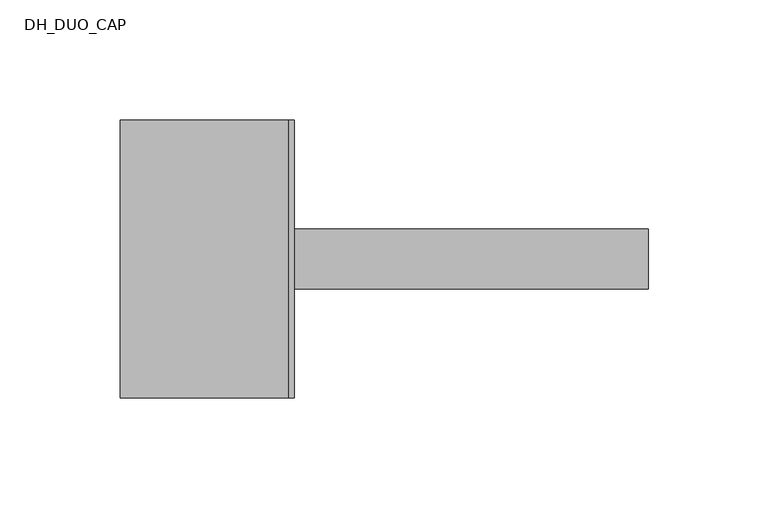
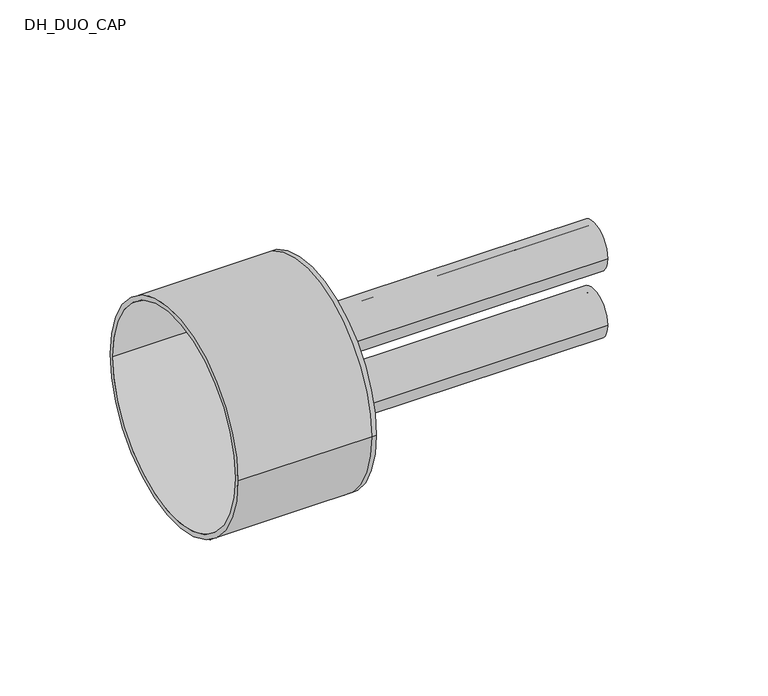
"""IFC4 building model written with IfcOpenShell, lengths in millimetres: pipe fitting geometry, DH_DUO_CAP : RAUTHERMEX DUO + 7.4 Heating - Solid Cap."""

from ifc_helpers import new_model, si_unit, point, frame, frame_2d, origin, place, context, project, spatial, polyline, circle_curve, trimmed, segment, composite_curve, outline, extrude, source, transform, mapped, element, save
from ifc_brep_helpers import plane_surface, cylinder_surface, revolved_surface, advanced_brep


def dh_duo_cap_164f9e09(model_context):
    return source(origin(), model_context, "Body", "SolidModel", [
        extrude(outline(composite_curve([segment(trimmed(circle_curve(frame_2d((0.0, -18.5)), 12.5), [point((-12.5, -18.5))], [point((12.5, -18.5))], False, "CARTESIAN"), True, "CONTINUOUS"), segment(trimmed(circle_curve(frame_2d((0.0, -18.5)), 12.5), [point((12.5, -18.5))], [point((-12.5, -18.5))], False, "CARTESIAN"), True, "CONTINUOUS")], self_intersect=False), holes=[composite_curve([segment(trimmed(circle_curve(frame_2d((0.0, -18.5)), 9.0), [point((-9.0, -18.5))], [point((9.0, -18.5))], True, "CARTESIAN"), True, "CONTINUOUS"), segment(trimmed(circle_curve(frame_2d((0.0, -18.5)), 9.0), [point((9.0, -18.5))], [point((-9.0, -18.5))], True, "CARTESIAN"), True, "CONTINUOUS")], self_intersect=False)]), frame((0.0, 0.0, 0.0), z_axis=(1.0, 0.0, 0.0), x_axis=(0.0, 1.0, 0.0)), (0.0, 0.0, 1.0), 150.0),
        extrude(outline(composite_curve([segment(trimmed(circle_curve(frame_2d((0.0, 18.5)), 12.5), [point((-12.5, 18.5))], [point((12.5, 18.5))], False, "CARTESIAN"), True, "CONTINUOUS"), segment(trimmed(circle_curve(frame_2d((0.0, 18.5)), 12.5), [point((12.5, 18.5))], [point((-12.5, 18.5))], False, "CARTESIAN"), True, "CONTINUOUS")], self_intersect=False), holes=[composite_curve([segment(trimmed(circle_curve(frame_2d((0.0, 18.5)), 9.0), [point((-9.0, 18.5))], [point((9.0, 18.5))], True, "CARTESIAN"), True, "CONTINUOUS"), segment(trimmed(circle_curve(frame_2d((0.0, 18.5)), 9.0), [point((9.0, 18.5))], [point((-9.0, 18.5))], True, "CARTESIAN"), True, "CONTINUOUS")], self_intersect=False)]), frame((0.0, 0.0, 0.0), z_axis=(1.0, 0.0, 0.0), x_axis=(0.0, 1.0, 0.0)), (0.0, 0.0, 1.0), 150.0),
        advanced_brep(
        [(-70.0, -58.0, 0.0), (-70.0, 58.0, 0.0), (-70.0, -55.5, 0.0), (-70.0, 55.5, 0.0), (0.0, -55.5, 0.0), (0.0, 55.5, 0.0), (0.0, -58.0, 0.0), (0.0, 58.0, 0.0), (0.0, 12.5, 18.5), (0.0, -12.5, 18.5), (0.0, 12.5, -18.5), (0.0, -12.5, -18.5), (2.5, -58.0, 0.0), (2.5, 58.0, 0.0), (2.5, -12.5, 18.5), (2.5, 12.5, 18.5), (2.5, -12.5, -18.5), (2.5, 12.5, -18.5)],
        [
            (0, 1, circle_curve(frame((-70.0, 0.0, 0.0), z_axis=(-1.0, 0.0, 0.0), x_axis=(0.0, 1.0, 0.0)), 58.0)),
            (1, 0, circle_curve(frame((-70.0, 0.0, 0.0), z_axis=(-1.0, 0.0, 0.0), x_axis=(0.0, 1.0, 0.0)), 58.0)),
            (2, 3, circle_curve(frame((-70.0, 0.0, 0.0), z_axis=(1.0, 0.0, 0.0), x_axis=(0.0, 1.0, 0.0)), 55.5)),
            (3, 2, circle_curve(frame((-70.0, 0.0, 0.0), z_axis=(1.0, 0.0, 0.0), x_axis=(0.0, 1.0, 0.0)), 55.5)),
            (2, 4),
            (4, 5, circle_curve(frame((0.0, 0.0, 0.0), z_axis=(1.0, 0.0, 0.0), x_axis=(0.0, 1.0, 0.0)), 55.5)),
            (5, 3),
            (5, 4, circle_curve(frame((0.0, 0.0, 0.0), z_axis=(1.0, 0.0, 0.0), x_axis=(0.0, 1.0, 0.0)), 55.5)),
            (0, 6),
            (6, 7, circle_curve(frame((0.0, 0.0, 0.0), z_axis=(-1.0, 0.0, 0.0), x_axis=(0.0, 1.0, 0.0)), 58.0)),
            (7, 1),
            (7, 6, circle_curve(frame((0.0, 0.0, 0.0), z_axis=(-1.0, 0.0, 0.0), x_axis=(0.0, 1.0, 0.0)), 58.0)),
            (8, 9, circle_curve(frame((0.0, 0.0, 18.5), z_axis=(1.0, 0.0, 0.0), x_axis=(0.0, 1.0, 0.0)), 12.5)),
            (9, 8, circle_curve(frame((0.0, 0.0, 18.5), z_axis=(1.0, 0.0, 0.0), x_axis=(0.0, 1.0, 0.0)), 12.5)),
            (10, 11, circle_curve(frame((0.0, 0.0, -18.5), z_axis=(1.0, 0.0, 0.0), x_axis=(0.0, 1.0, 0.0)), 12.5)),
            (11, 10, circle_curve(frame((0.0, 0.0, -18.5), z_axis=(1.0, 0.0, 0.0), x_axis=(0.0, 1.0, 0.0)), 12.5)),
            (12, 13, circle_curve(frame((2.5, 0.0, 0.0), z_axis=(1.0, 0.0, 0.0), x_axis=(0.0, 1.0, 0.0)), 58.0)),
            (13, 12, circle_curve(frame((2.5, 0.0, 0.0), z_axis=(1.0, 0.0, 0.0), x_axis=(0.0, 1.0, 0.0)), 58.0)),
            (14, 15, circle_curve(frame((2.5, 0.0, 18.5), z_axis=(-1.0, 0.0, 0.0), x_axis=(0.0, 1.0, 0.0)), 12.5)),
            (15, 14, circle_curve(frame((2.5, 0.0, 18.5), z_axis=(-1.0, 0.0, 0.0), x_axis=(0.0, 1.0, 0.0)), 12.5)),
            (16, 17, circle_curve(frame((2.5, 0.0, -18.5), z_axis=(-1.0, 0.0, 0.0), x_axis=(0.0, 1.0, 0.0)), 12.5)),
            (17, 16, circle_curve(frame((2.5, 0.0, -18.5), z_axis=(-1.0, 0.0, 0.0), x_axis=(0.0, 1.0, 0.0)), 12.5)),
            (13, 7),
            (6, 12),
            (8, 15),
            (14, 9),
            (10, 17),
            (16, 11),
        ],
        [
            plane_surface(frame((-70.0, 0.0, 0.0), z_axis=(-1.0, 0.0, 0.0), x_axis=(0.0, 0.0, 1.0))),
            revolved_surface(polyline([(0.0, 55.5, 0.0), (-70.0, 55.5, 0.0)]), (-70.0, 0.0, 0.0), (1.0, 0.0, 0.0)),
            cylinder_surface(frame((-70.0, 0.0, 0.0), z_axis=(-1.0, 0.0, 0.0), x_axis=(0.0, 1.0, 0.0)), 58.0),
            plane_surface(frame((0.0, 0.0, 0.0), z_axis=(-1.0, 0.0, 0.0), x_axis=(0.0, 0.0, 1.0))),
            plane_surface(frame((2.5, 0.0, 0.0), z_axis=(1.0, 0.0, 0.0), x_axis=(0.0, 0.0, 1.0))),
            cylinder_surface(frame((0.0, 0.0, 0.0), z_axis=(-1.0, 0.0, 0.0), x_axis=(0.0, 1.0, 0.0)), 58.0),
            revolved_surface(polyline([(0.0, 12.5, 18.5), (2.5, 12.5, 18.5)]), (0.0, 0.0, 18.5), (-1.0, 0.0, 0.0)),
            revolved_surface(polyline([(0.0, 12.5, -18.5), (2.5, 12.5, -18.5)]), (0.0, 0.0, -18.5), (-1.0, 0.0, 0.0)),
        ],
        [
            (0, [[1, 2], [3, 4]]),
            (1, [[-3, 5, 6, 7]]),
            (1, [[-4, -7, 8, -5]]),
            (2, [[-1, 9, 10, 11]]),
            (2, [[-2, -11, 12, -9]]),
            (3, [[-6, -8], [13, 14], [15, 16]]),
            (4, [[17, 18], [19, 20], [21, 22]]),
            (5, [[-18, 23, -10, 24]]),
            (5, [[-17, -24, -12, -23]]),
            (6, [[25, -19, 26, -13]]),
            (6, [[-25, -14, -26, -20]]),
            (7, [[27, -21, 28, -15]]),
            (7, [[-27, -16, -28, -22]]),
        ],
    ),
    ])


if __name__ == "__main__":
    model = new_model("IFC4")
    model_context = context("Model", 3, world=origin())
    ifc_project = project(units=[si_unit("LENGTHUNIT", "METRE", prefix="MILLI")], contexts=[model_context])
    site = spatial("IfcSite", under=ifc_project)
    building = spatial("IfcBuilding", under=site)
    placement = place(None, origin())
    dh_duo_cap_shape = dh_duo_cap_164f9e09(model_context)
    element("IfcPipeFitting", 1, ObjectType="DH_DUO_CAP : RAUTHERMEX DUO + 7.4 Heating - Solid Cap", at=placement, inside=building, context=model_context, shape_type="MappedRepresentation", body=[
        mapped(dh_duo_cap_shape, transform((0.0, 0.0, 0.0), x_axis=(1.0, 0.0, 0.0), y_axis=(0.0, 1.0, 0.0), z_axis=(0.0, 0.0, 1.0))),
    ])
    save(model, "model.ifc")
